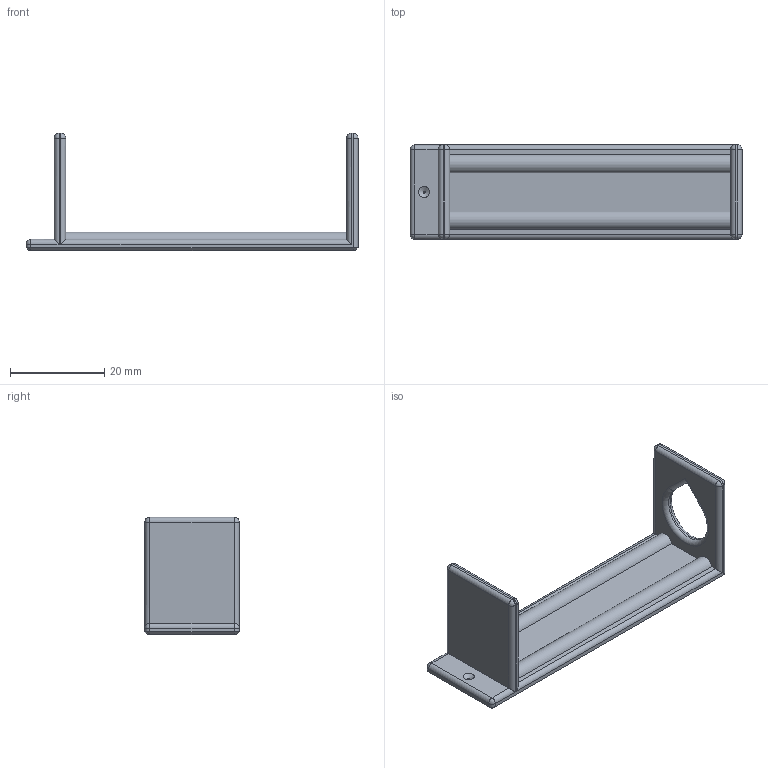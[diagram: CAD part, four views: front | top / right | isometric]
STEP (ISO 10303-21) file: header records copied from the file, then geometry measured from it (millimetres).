
FILE_DESCRIPTION(('Open CASCADE Model'),'2;1');
FILE_NAME('Open CASCADE Shape Model','2026-10-12T20:43:30',('Author'),( 'Open CASCADE'),'Open CASCADE STEP processor 8.0','build123d', 'Unknown');
FILE_SCHEMA(('AUTOMOTIVE_DESIGN { 1 0 10303 214 1 1 1 1 }'));
Length unit declared in the file: millimetre
Products named in the file (1): COMPOUND
Bounding box: 70.4 x 20 x 24.9 mm (x, y, z)
Volume: 5620 mm3; surface area: 4988.1 mm2
Topology: 1 solids, 1 shells, 68 faces, 155 edges, 80 vertices
Faces by surface type: cylinder 30, plane 21, sphere 10, cone 5, torus 2
Entity records: 3695 total; most frequent: CARTESIAN_POINT 814, DIRECTION 524, ORIENTED_EDGE 290, PCURVE 290, DEFINITIONAL_REPRESENTATION 290, LINE 259, VECTOR 259, EDGE_CURVE 145
